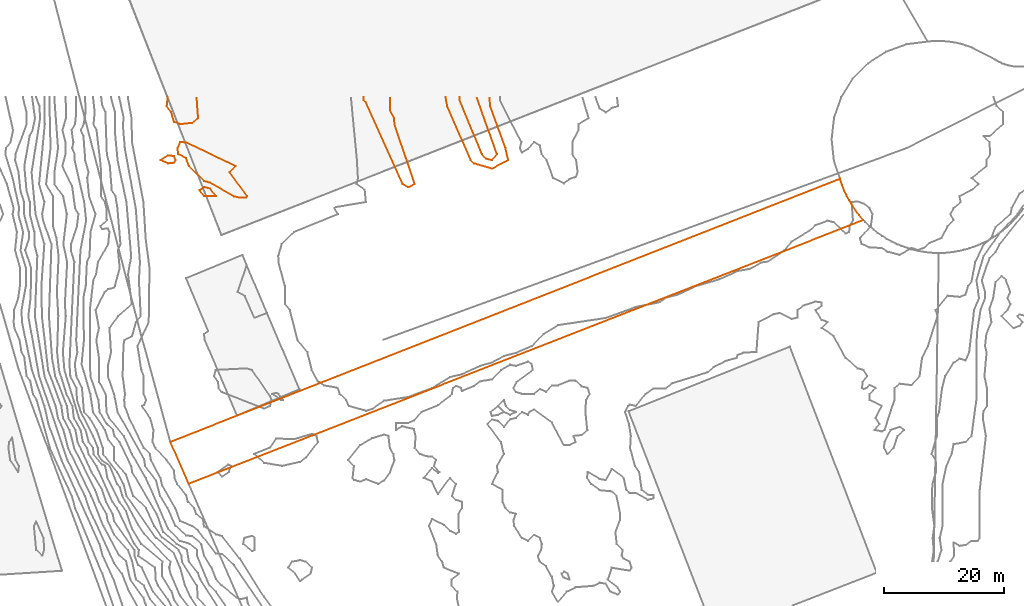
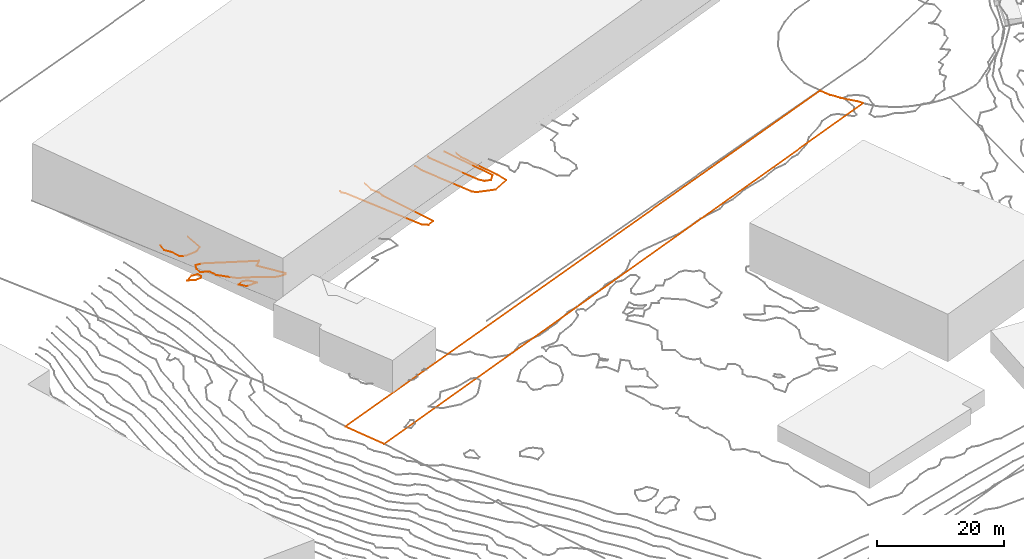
# Not in any storey, part 343 of 419: 8 proxies.
"""IFC2X3 model written with IfcOpenShell, lengths in metres."""

from ifc_helpers import new_model, entity, si_unit, frame, origin_with_axes, place, context, subcontext, project, element, save


model = new_model("IFC2X3")

# Units and contexts
model_context = context("Model", 3, precision=1e-05, world=origin_with_axes())
body_context = subcontext(model_context, "Body", "Model", "MODEL_VIEW")
ifc_project = project(units=[si_unit("AREAUNIT", "SQUARE_METRE"), si_unit("LENGTHUNIT", "METRE")], contexts=[model_context])

# Proxies
proxy_1_placement = place(None, frame((319.4720204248, 974.9076909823, 46.8295921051), z_axis=(0.0, 0.0, 1.0), x_axis=(1.0, 0.0, 0.0)))
element("IfcBuildingElementProxy", 1, at=proxy_1_placement, Name="Cadastre 267", ObjectType="NOTDEFINED", context=body_context, shape_type="GeometricCurveSet", body=[
    entity("IfcGeometricCurveSet", [entity("IfcPolyline", [entity("IfcCartesianPoint", [3.05, -6.9899999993, -0.1768398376]), entity("IfcCartesianPoint", [0.0, 0.0, 0.0]), entity("IfcCartesianPoint", [111.6800000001, 43.8799999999, -1.0949111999]), entity("IfcCartesianPoint", [111.72, 43.7300000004, -1.0907913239]), entity("IfcCartesianPoint", [112.03, 42.8200000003, -1.0737930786]), entity("IfcCartesianPoint", [112.39, 41.9199999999, -0.9909925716]), entity("IfcCartesianPoint", [112.8100000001, 41.0500000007, -0.892084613]), entity("IfcCartesianPoint", [113.21, 40.3000000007, -0.828368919]), entity("IfcCartesianPoint", [113.26, 40.2000000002, -0.82581381]), entity("IfcCartesianPoint", [113.75, 39.3700000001, -0.7464110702]), entity("IfcCartesianPoint", [114.3, 38.5700000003, -0.6351770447]), entity("IfcCartesianPoint", [114.88, 37.8000000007, -0.5923360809]), entity("IfcCartesianPoint", [115.5600000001, 36.9900000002, -0.688792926]), entity("IfcCartesianPoint", [3.05, -6.9899999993, -0.1768398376])])]),
])
proxy_2_placement = place(None, frame((318.8634452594, 1030.8976909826, 47.0), z_axis=(0.0, 0.0, 1.0), x_axis=(1.0, 0.0, 0.0)))
element("IfcBuildingElementProxy", 2, at=proxy_2_placement, Name="Contour 47.0 m", ObjectType="NOTDEFINED", context=body_context, shape_type="GeometricCurveSet", body=[
    entity("IfcGeometricCurveSet", [entity("IfcPolyline", [entity("IfcCartesianPoint", [4.978599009, 1.5, 0.0]), entity("IfcCartesianPoint", [5.2285751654, -2.0000499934, 0.0]), entity("IfcCartesianPoint", [4.2285751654, -2.8000305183, 0.0]), entity("IfcCartesianPoint", [2.2285751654, -3.0000124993, 0.0]), entity("IfcCartesianPoint", [1.2285751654, -2.6428610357, 0.0]), entity("IfcCartesianPoint", [0.7285720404, -1.0, 0.0]), entity("IfcCartesianPoint", [0.0, 0.0, 0.0]), entity("IfcCartesianPoint", [0.1640578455, 1.5, 0.0])])]),
])
proxy_3_placement = place(None, frame((367.705659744, 1031.8976909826, 47.0), z_axis=(0.0, 0.0, 1.0), x_axis=(1.0, 0.0, 0.0)))
element("IfcBuildingElementProxy", 3, at=proxy_3_placement, Name="Contour 47.0 m", ObjectType="NOTDEFINED", context=body_context, shape_type="GeometricCurveSet", body=[
    entity("IfcGeometricCurveSet", [entity("IfcPolyline", [entity("IfcCartesianPoint", [2.8506459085, 0.5, 0.0]), entity("IfcCartesianPoint", [6.2196961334, -9.0, 0.0]), entity("IfcCartesianPoint", [5.3863606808, -10.0131557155, 0.0]), entity("IfcCartesianPoint", [4.3863606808, -9.7631581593, 0.0]), entity("IfcCartesianPoint", [3.727271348, -9.0, 0.0]), entity("IfcCartesianPoint", [0.0, 0.0, 0.0]), entity("IfcCartesianPoint", [0.0, 0.5, 0.0])])]),
])
proxy_4_placement = place(None, frame((317.8062983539, 1021.8976909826, 47.0), z_axis=(0.0, 0.0, 1.0), x_axis=(1.0, 0.0, 0.0)))
element("IfcBuildingElementProxy", 4, at=proxy_4_placement, Name="Contour 47.0 m", ObjectType="NOTDEFINED", context=body_context, shape_type="GeometricCurveSet", body=[
    entity("IfcGeometricCurveSet", [entity("IfcPolyline", [entity("IfcCartesianPoint", [2.5210188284, 0.0, 0.0]), entity("IfcCartesianPoint", [2.2857220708, -0.4444538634, 0.0]), entity("IfcCartesianPoint", [1.2857220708, -0.5384547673, 0.0]), entity("IfcCartesianPoint", [0.0, 0.0, 0.0]), entity("IfcCartesianPoint", [1.2857220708, 0.7777730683, 0.0]), entity("IfcCartesianPoint", [2.2857220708, 0.666666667, 0.0]), entity("IfcCartesianPoint", [2.5210188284, 0.0, 0.0])])]),
])
proxy_5_placement = place(None, frame((365.3847008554, 1032.3976909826, 46.0), z_axis=(0.0, 0.0, 1.0), x_axis=(1.0, 0.0, 0.0)))
element("IfcBuildingElementProxy", 5, at=proxy_5_placement, Name="Contour 46.0 m", ObjectType="NOTDEFINED", context=body_context, shape_type="GeometricCurveSet", body=[
    entity("IfcGeometricCurveSet", [entity("IfcPolyline", [entity("IfcCartesianPoint", [7.2970629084, 0.0, 0.0]), entity("IfcCartesianPoint", [7.433128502, -1.5, 0.0]), entity("IfcCartesianPoint", [9.9756138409, -8.5, 0.0]), entity("IfcCartesianPoint", [10.4273207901, -10.5, 0.0]), entity("IfcCartesianPoint", [7.7073195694, -11.9237287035, 0.0]), entity("IfcCartesianPoint", [4.7073195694, -11.0500009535, 0.0]), entity("IfcCartesianPoint", [4.1956891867, -10.5, 0.0]), entity("IfcCartesianPoint", [0.2489868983, -1.5, 0.0]), entity("IfcCartesianPoint", [0.0, 0.0, 0.0])])]),
])
proxy_6_placement = place(None, frame((351.6634645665, 1031.8976909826, 46.0), z_axis=(0.0, 0.0, 1.0), x_axis=(1.0, 0.0, 0.0)))
element("IfcBuildingElementProxy", 6, at=proxy_6_placement, Name="Contour 46.0 m", ObjectType="NOTDEFINED", context=body_context, shape_type="GeometricCurveSet", body=[
    entity("IfcGeometricCurveSet", [entity("IfcPolyline", [entity("IfcCartesianPoint", [4.4285808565, 0.5, 0.0]), entity("IfcCartesianPoint", [4.4285558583, -1.6667090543, 0.0]), entity("IfcCartesianPoint", [5.1208590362, -3.0, 0.0]), entity("IfcCartesianPoint", [5.1785518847, -4.0, 0.0]), entity("IfcCartesianPoint", [8.5649155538, -14.0, 0.0]), entity("IfcCartesianPoint", [7.4285558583, -14.5384626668, 0.0]), entity("IfcCartesianPoint", [6.5535588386, -14.0, 0.0]), entity("IfcCartesianPoint", [0.4285558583, -0.4285558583, 0.0]), entity("IfcCartesianPoint", [0.0, 0.0, 0.0]), entity("IfcCartesianPoint", [0.0, 0.5, 0.0])])]),
])
proxy_7_placement = place(None, frame((320.6753564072, 1023.8976909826, 47.0), z_axis=(0.0, 0.0, 1.0), x_axis=(1.0, 0.0, 0.0)))
element("IfcBuildingElementProxy", 7, at=proxy_7_placement, Name="Contour 47.0 m", ObjectType="NOTDEFINED", context=body_context, shape_type="GeometricCurveSet", body=[
    entity("IfcGeometricCurveSet", [entity("IfcPolyline", [entity("IfcCartesianPoint", [11.5833094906, -8.0, 0.0]), entity("IfcCartesianPoint", [11.4166640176, -8.2499761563, 0.0]), entity("IfcCartesianPoint", [10.4166640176, -8.2857220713, 0.0]), entity("IfcCartesianPoint", [9.4166640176, -8.071416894, 0.0]), entity("IfcCartesianPoint", [5.4166640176, -5.7857220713, 0.0]), entity("IfcCartesianPoint", [4.4166640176, -5.5000166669, 0.0]), entity("IfcCartesianPoint", [1.8749966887, -3.0, 0.0]), entity("IfcCartesianPoint", [1.4166640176, -1.666666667, 0.0]), entity("IfcCartesianPoint", [0.0833730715, -1.0, 0.0]), entity("IfcCartesianPoint", [0.0, 0.0, 0.0]), entity("IfcCartesianPoint", [0.4166640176, 1.0000111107, 0.0]), entity("IfcCartesianPoint", [1.4166640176, 0.9333435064, 0.0]), entity("IfcCartesianPoint", [9.666640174, -3.0, 0.0]), entity("IfcCartesianPoint", [8.6666640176, -4.0, 0.0]), entity("IfcCartesianPoint", [11.5833094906, -8.0, 0.0])])]),
])
proxy_8_placement = place(None, frame((324.3419965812, 1016.8976909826, 47.0), z_axis=(0.0, 0.0, 1.0), x_axis=(1.0, 0.0, 0.0)))
element("IfcBuildingElementProxy", 8, at=proxy_8_placement, Name="Contour 47.0 m", ObjectType="NOTDEFINED", context=body_context, shape_type="GeometricCurveSet", body=[
    entity("IfcGeometricCurveSet", [entity("IfcPolyline", [entity("IfcCartesianPoint", [2.7500405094, -1.0, 0.0]), entity("IfcCartesianPoint", [0.7500238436, -1.0000124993, 0.0]), entity("IfcCartesianPoint", [0.0, 0.0, 0.0]), entity("IfcCartesianPoint", [0.7500238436, 0.5000166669, 0.0]), entity("IfcCartesianPoint", [1.7500238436, 0.2499761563, 0.0]), entity("IfcCartesianPoint", [2.7500405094, -1.0, 0.0])])]),
])

save(model, "model.ifc")
